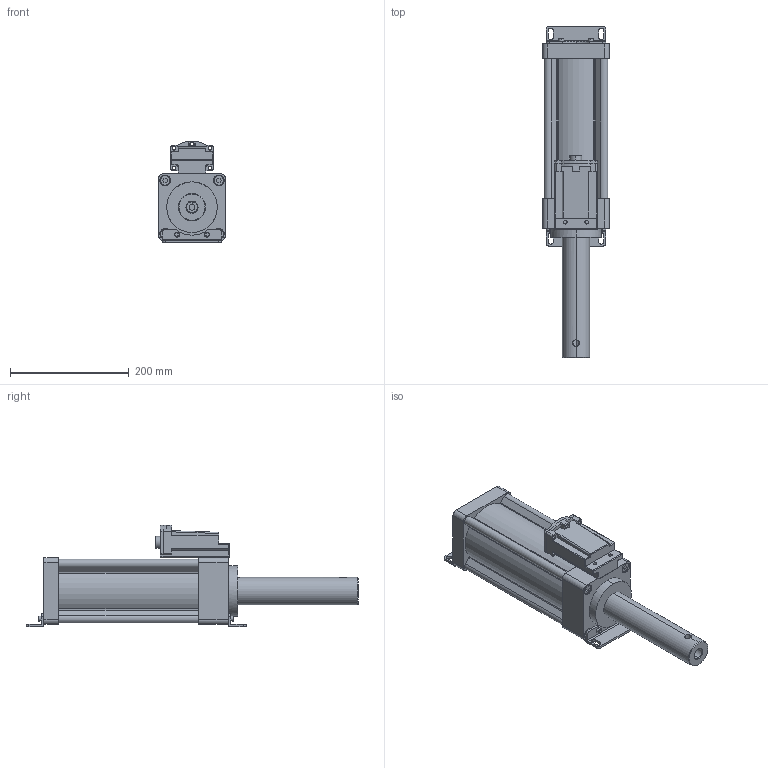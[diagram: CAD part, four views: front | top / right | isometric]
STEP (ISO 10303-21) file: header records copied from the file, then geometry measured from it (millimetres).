
FILE_DESCRIPTION (( 'STEP AP203' ), '1' );
FILE_NAME ('MHA1011N120.STEP', '2016-03-19T03:47:12', ( 'WIN' ), ( '' ), 'SwSTEP 2.0', 'SolidWorks 2014', '' );
FILE_SCHEMA (( 'CONFIG_CONTROL_DESIGN' ));
Length unit declared in the file: millimetre
Products named in the file (1): MHA1011N120
Bounding box: 112 x 558 x 170.97 mm (x, y, z)
Surface area: 421303.7 mm2 (no closed solid volume)
Topology: 0 solids, 6 shells, 455 faces, 1155 edges, 740 vertices
Faces by surface type: plane 220, cylinder 200, cone 20, sphere 8, torus 5, bspline 2
Entity records: 14308 total; most frequent: CARTESIAN_POINT 2974, DIRECTION 2428, ORIENTED_EDGE 2263, EDGE_CURVE 1143, AXIS2_PLACEMENT_3D 864, VERTEX_POINT 740, VECTOR 700, LINE 700
